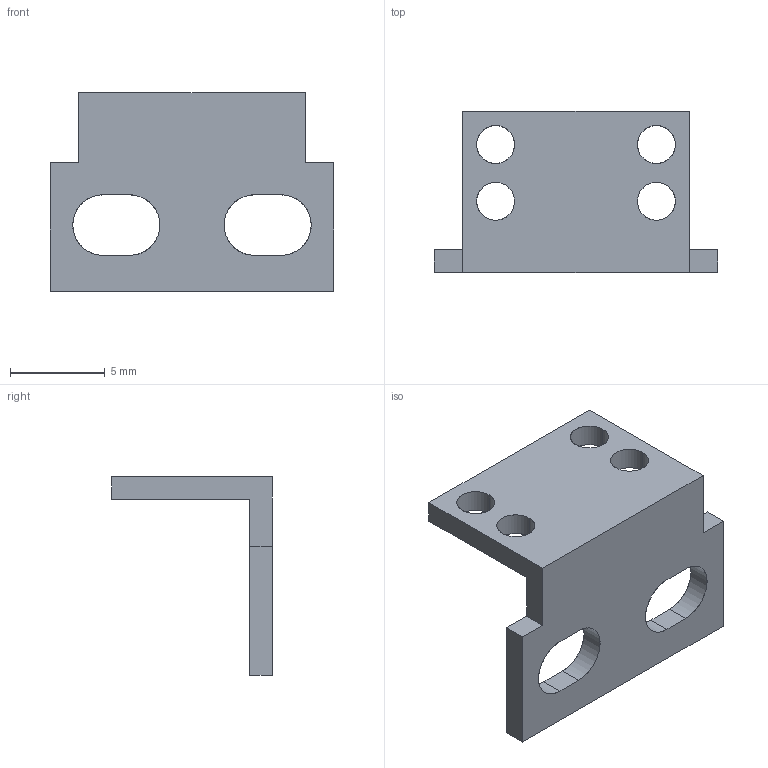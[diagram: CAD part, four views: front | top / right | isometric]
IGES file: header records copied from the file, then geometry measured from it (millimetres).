
Start section: SolidWorks IGES file using analytic representation for surfaces
Global section: file name: C:\catalog\ms-exz-1.IGS; native system: SolidWorks 2010; preprocessor: SolidWorks 2010; author: hi1633; date: 150421.101052; units: millimetre
Bounding box: 15 x 8.5 x 10.5 mm (x, y, z)
Surface area: 532.5 mm2 (no closed solid volume)
Topology: 0 solids, 0 shells, 28 faces, 516 edges, 516 vertices
Faces by surface type: bspline 16, revolution 12
